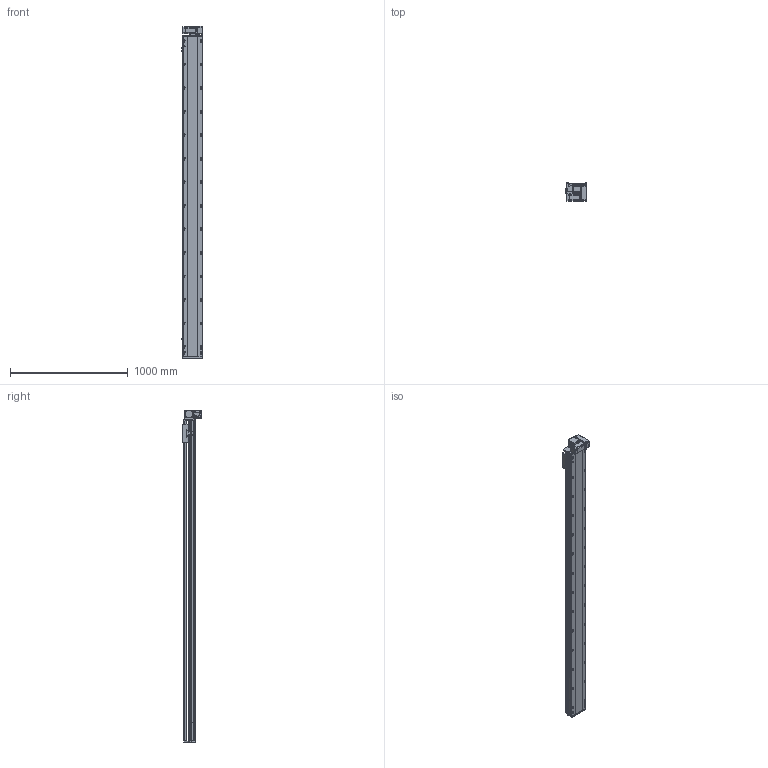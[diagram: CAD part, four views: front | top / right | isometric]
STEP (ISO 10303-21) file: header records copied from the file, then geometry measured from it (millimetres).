
FILE_DESCRIPTION (( 'STEP AP214' ), '1' );
FILE_NAME ('RTB17S-XX-2450-RM-M40-C4.STEP', '2025-12-11T08:29:42', ( '' ), ( '' ), 'SwSTEP 2.0', 'SolidWorks 2018', '' );
FILE_SCHEMA (( 'AUTOMOTIVE_DESIGN' ));
Length unit declared in the file: millimetre
Products named in the file (14): RTB17S-L-004佪裝蹟譫蟀諉釱^RTB17S-XX-XX-RM-M40-C4; RTB17S-XX-2450-RM-M40-C4; RTB17S-L-001耜醱啣^RTB17S-XX-XX-RM-M40-C4; RTB17-R-011菁釱^RTB17S-XX-XX-RM-M40-C4; RTB17S-RM-々湍釱蚾饜-400W^RTB17S-XX-XX-RM-M40-C4; OMRON EE-SX672 传感器^RTB17S-XX-XX-RM-M40-C4; RTB14-L-018P^RTB17S-RM-々湍釱蚾饜-400W_RTB17S-XX-XX-RM-M40-C4; RTB14-L-008-M20--萇儂啣^RTB17S-RM-々湍釱蚾饜-400W_RTB17S-XX-XX-RM-M40-C4; 400W侜督萇儂^RTB17S-XX-XX-RM-M40-C4; RTB17S-L-014-T20--々湍釱^RTB17S-RM-々湍釱蚾饜-400W_RTB17S-XX-XX-RM-M40-C4; RTB17S-L-007奻裔^RTB17S-XX-XX-RM-M40-C4; RTH13-BL-012覜茼え俋离^RTB17S-XX-XX-RM-M40-C4; RTB14-L-017P^RTB17S-RM-々湍釱蚾饜-400W_RTB17S-XX-XX-RM-M40-C4; RTB14-L-005P--轴承塑胶压盖^RTB17S-RM-皮带座装配-400W_RTB17S-XX-XX-RM-M40-C4
Assembly tree (16 placements, depth 3):
  RTB17S-XX-2450-RM-M40-C4
    RTB17-R-011菁釱^RTB17S-XX-XX-RM-M40-C4
    RTB17S-L-007奻裔^RTB17S-XX-XX-RM-M40-C4
    OMRON EE-SX672 传感器^RTB17S-XX-XX-RM-M40-C4  x3
    RTB17S-L-001耜醱啣^RTB17S-XX-XX-RM-M40-C4
    400W侜督萇儂^RTB17S-XX-XX-RM-M40-C4
    RTB17S-L-004佪裝蹟譫蟀諉釱^RTB17S-XX-XX-RM-M40-C4
    RTH13-BL-012覜茼え俋离^RTB17S-XX-XX-RM-M40-C4
    RTB17S-RM-々湍釱蚾饜-400W^RTB17S-XX-XX-RM-M40-C4
      RTB17S-L-014-T20--々湍釱^RTB17S-RM-々湍釱蚾饜-400W_RTB17S-XX-XX-RM-M40-C4
      RTB14-L-005P--轴承塑胶压盖^RTB17S-RM-皮带座装配-400W_RTB17S-XX-XX-RM-M40-C4
      RTB14-L-008-M20--萇儂啣^RTB17S-RM-々湍釱蚾饜-400W_RTB17S-XX-XX-RM-M40-C4
      RTB14-L-017P^RTB17S-RM-々湍釱蚾饜-400W_RTB17S-XX-XX-RM-M40-C4  x2
      RTB14-L-018P^RTB17S-RM-々湍釱蚾饜-400W_RTB17S-XX-XX-RM-M40-C4
Bounding box: 183.5 x 156.5 x 2822.5 mm (x, y, z)
Volume: 24193735.4 mm3; surface area: 2789336 mm2
Topology: 15 solids, 15 shells, 2333 faces, 6519 edges, 4257 vertices
Faces by surface type: plane 1084, cylinder 801, bspline 301, cone 139, torus 8
Entity records: 68777 total; most frequent: CARTESIAN_POINT 19524, ORIENTED_EDGE 9882, DIRECTION 9116, EDGE_CURVE 4941, VERTEX_POINT 3245, AXIS2_PLACEMENT_3D 3175, VECTOR 2766, LINE 2766
